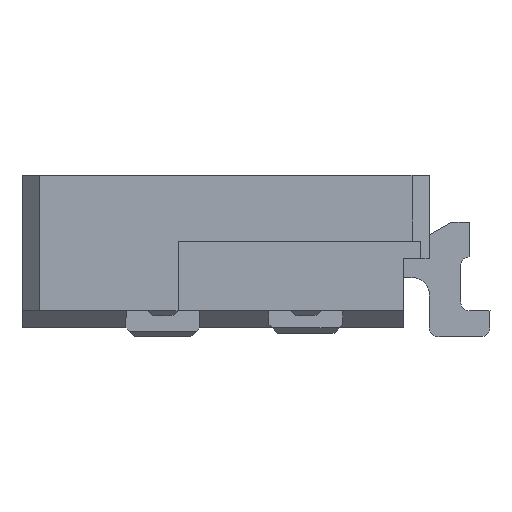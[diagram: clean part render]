
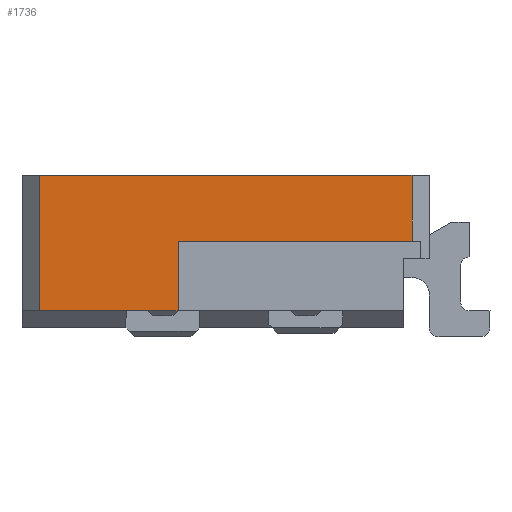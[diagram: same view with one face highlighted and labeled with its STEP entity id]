
A CAD part, left-side view. The second image highlights one B-rep face of the part: STEP entity #1736.
In plain terms, the highlighted planar face has unit normal (-1, 0, 0).
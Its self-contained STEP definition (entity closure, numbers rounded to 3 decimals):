
#204 = CARTESIAN_POINT ( 'NONE',  ( -1.85, -2.25, 0.88 ) ) ;
#690 = AXIS2_PLACEMENT_3D ( 'NONE', #974, #11930, #10665 ) ;
#974 = CARTESIAN_POINT ( 'NONE',  ( -1.85, 0., 0. ) ) ;
#1058 = VECTOR ( 'NONE', #1193, 1000. ) ;
#1182 = ORIENTED_EDGE ( 'NONE', *, *, #2118, .F. ) ;
#1193 = DIRECTION ( 'NONE',  ( 0., -1., 0. ) ) ;
#1352 = VECTOR ( 'NONE', #4998, 1000. ) ;
#1481 = DIRECTION ( 'NONE',  ( 0., 0., -1. ) ) ;
#1736 = ADVANCED_FACE ( 'NONE', ( #8742 ), #2232, .T. ) ;
#2050 = CARTESIAN_POINT ( 'NONE',  ( -1.85, -0.9, 0.1 ) ) ;
#2118 = EDGE_CURVE ( 'NONE', #5218, #2627, #3959, .T. ) ;
#2232 = PLANE ( 'NONE',  #690 ) ;
#2492 = CARTESIAN_POINT ( 'NONE',  ( -1.85, 0., 0.1 ) ) ;
#2627 = VERTEX_POINT ( 'NONE', #6087 ) ;
#2764 = CARTESIAN_POINT ( 'NONE',  ( -1.85, -2.25, 0. ) ) ;
#3149 = CARTESIAN_POINT ( 'NONE',  ( -1.85, -0.1, 0.1 ) ) ;
#3595 = VERTEX_POINT ( 'NONE', #6234 ) ;
#3793 = DIRECTION ( 'NONE',  ( 0., 0., 1. ) ) ;
#3872 = ORIENTED_EDGE ( 'NONE', *, *, #4806, .T. ) ;
#3913 = EDGE_CURVE ( 'NONE', #4203, #5512, #6308, .T. ) ;
#3959 = LINE ( 'NONE', #2764, #5638 ) ;
#4134 = DIRECTION ( 'NONE',  ( 0., 0., -1. ) ) ;
#4203 = VERTEX_POINT ( 'NONE', #3149 ) ;
#4227 = EDGE_CURVE ( 'NONE', #5218, #5512, #7490, .T. ) ;
#4264 = EDGE_CURVE ( 'NONE', #3595, #11719, #6650, .T. ) ;
#4649 = DIRECTION ( 'NONE',  ( 0., 1., 0. ) ) ;
#4806 = EDGE_CURVE ( 'NONE', #4203, #11719, #9945, .T. ) ;
#4998 = DIRECTION ( 'NONE',  ( 0., 1., 0. ) ) ;
#5006 = CARTESIAN_POINT ( 'NONE',  ( -1.85, -0.1, 1.056 ) ) ;
#5218 = VERTEX_POINT ( 'NONE', #204 ) ;
#5322 = CARTESIAN_POINT ( 'NONE',  ( -1.85, -0.1, 0.88 ) ) ;
#5373 = CARTESIAN_POINT ( 'NONE',  ( -1.85, -0.9, 0. ) ) ;
#5512 = VERTEX_POINT ( 'NONE', #5322 ) ;
#5638 = VECTOR ( 'NONE', #1481, 1000. ) ;
#5892 = CARTESIAN_POINT ( 'NONE',  ( -1.85, 0., 0.5 ) ) ;
#6087 = CARTESIAN_POINT ( 'NONE',  ( -1.85, -2.25, 0.5 ) ) ;
#6217 = LINE ( 'NONE', #5892, #6527 ) ;
#6234 = CARTESIAN_POINT ( 'NONE',  ( -1.85, -0.9, 0.5 ) ) ;
#6296 = CARTESIAN_POINT ( 'NONE',  ( -1.85, 0., 0.88 ) ) ;
#6308 = LINE ( 'NONE', #5006, #7931 ) ;
#6527 = VECTOR ( 'NONE', #4649, 1000. ) ;
#6650 = LINE ( 'NONE', #5373, #6711 ) ;
#6711 = VECTOR ( 'NONE', #4134, 1000. ) ;
#7490 = LINE ( 'NONE', #6296, #1352 ) ;
#7931 = VECTOR ( 'NONE', #3793, 1000. ) ;
#8662 = ORIENTED_EDGE ( 'NONE', *, *, #4227, .T. ) ;
#8742 = FACE_OUTER_BOUND ( 'NONE', #11931, .T. ) ;
#9005 = EDGE_CURVE ( 'NONE', #2627, #3595, #6217, .T. ) ;
#9945 = LINE ( 'NONE', #2492, #1058 ) ;
#10086 = ORIENTED_EDGE ( 'NONE', *, *, #3913, .F. ) ;
#10665 = DIRECTION ( 'NONE',  ( 0., 0., -1. ) ) ;
#10748 = ORIENTED_EDGE ( 'NONE', *, *, #9005, .F. ) ;
#11553 = ORIENTED_EDGE ( 'NONE', *, *, #4264, .F. ) ;
#11719 = VERTEX_POINT ( 'NONE', #2050 ) ;
#11930 = DIRECTION ( 'NONE',  ( -1., 0., 0. ) ) ;
#11931 = EDGE_LOOP ( 'NONE', ( #8662, #10086, #3872, #11553, #10748, #1182 ) ) ;
